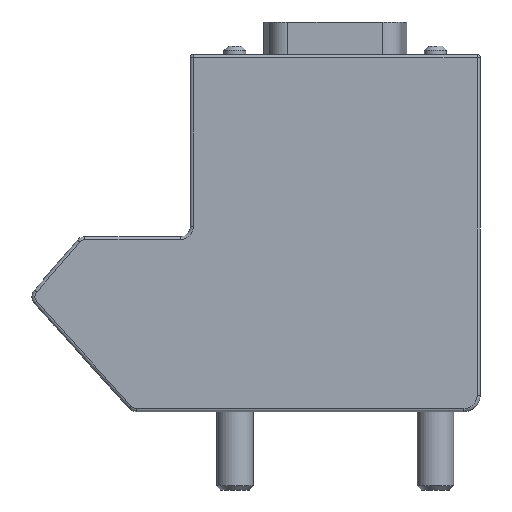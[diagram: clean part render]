
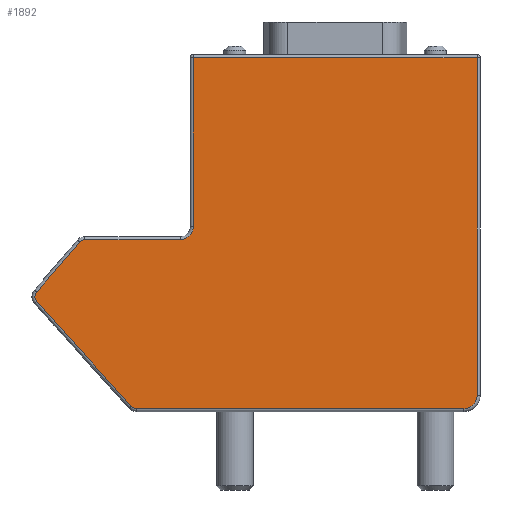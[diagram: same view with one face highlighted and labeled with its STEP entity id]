
A CAD part, left-side view. The second image highlights one B-rep face of the part: STEP entity #1892.
In plain terms, the highlighted planar face has unit normal (-1, 0, 0).
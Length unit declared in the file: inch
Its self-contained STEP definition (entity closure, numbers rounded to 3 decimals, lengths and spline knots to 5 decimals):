
#1=DIRECTION('',(0.,0.,1.));
#2=VECTOR('',#1,1.66);
#3=CARTESIAN_POINT('',(0.,0.015,-1.675));
#4=LINE('',#3,#2);
#5=CARTESIAN_POINT('',(0.,0.08,-1.675));
#6=DIRECTION('',(-1.,0.,0.));
#7=DIRECTION('',(0.,0.,-1.));
#8=AXIS2_PLACEMENT_3D('',#5,#6,#7);
#10=DIRECTION('',(0.,-1.,0.));
#11=VECTOR('',#10,1.60782);
#12=CARTESIAN_POINT('',(0.,1.68782,-1.74));
#13=LINE('',#12,#11);
#14=CARTESIAN_POINT('',(0.,1.68782,-1.705));
#15=DIRECTION('',(-1.,0.,0.));
#16=DIRECTION('',(0.,0.741,-0.671));
#17=AXIS2_PLACEMENT_3D('',#14,#15,#16);
#19=DIRECTION('',(0.,-0.671,-0.741));
#20=VECTOR('',#19,0.6937);
#21=CARTESIAN_POINT('',(0.,2.17928,-1.21417));
#22=LINE('',#21,#20);
#23=CARTESIAN_POINT('',(0.,2.15333,-1.19068));
#24=DIRECTION('',(-1.,0.,0.));
#25=DIRECTION('',(0.,0.758,0.652));
#26=AXIS2_PLACEMENT_3D('',#23,#24,#25);
#28=DIRECTION('',(0.,0.652,-0.758));
#29=VECTOR('',#28,0.32403);
#30=CARTESIAN_POINT('',(0.,1.96859,-0.92218));
#31=LINE('',#30,#29);
#32=CARTESIAN_POINT('',(0.,1.94205,-0.945));
#33=DIRECTION('',(-1.,0.,0.));
#34=DIRECTION('',(0.,0.,1.));
#35=AXIS2_PLACEMENT_3D('',#32,#33,#34);
#37=DIRECTION('',(0.,1.,0.));
#38=VECTOR('',#37,0.46705);
#39=CARTESIAN_POINT('',(0.,1.475,-0.91));
#40=LINE('',#39,#38);
#41=CARTESIAN_POINT('',(0.,1.475,-0.845));
#42=DIRECTION('',(1.,0.,0.));
#43=DIRECTION('',(0.,-1.,0.));
#44=AXIS2_PLACEMENT_3D('',#41,#42,#43);
#46=DIRECTION('',(0.,0.,-1.));
#47=VECTOR('',#46,0.83);
#48=CARTESIAN_POINT('',(0.,1.41,-0.015));
#49=LINE('',#48,#47);
#50=DIRECTION('',(0.,1.,0.));
#51=VECTOR('',#50,1.395);
#52=CARTESIAN_POINT('',(0.,0.015,-0.015));
#53=LINE('',#52,#51);
#1469=CARTESIAN_POINT('',(0.,0.015,-1.675));
#1470=CARTESIAN_POINT('',(0.,0.015,-0.015));
#1471=VERTEX_POINT('',#1469);
#1472=VERTEX_POINT('',#1470);
#1473=CARTESIAN_POINT('',(0.,0.08,-1.74));
#1474=VERTEX_POINT('',#1473);
#1477=CARTESIAN_POINT('',(0.,1.68782,-1.74));
#1478=VERTEX_POINT('',#1477);
#1481=CARTESIAN_POINT('',(0.,1.71377,-1.72849));
#1482=VERTEX_POINT('',#1481);
#1485=CARTESIAN_POINT('',(0.,2.17928,-1.21417));
#1486=VERTEX_POINT('',#1485);
#1489=CARTESIAN_POINT('',(0.,2.17986,-1.16786));
#1490=VERTEX_POINT('',#1489);
#1493=CARTESIAN_POINT('',(0.,1.96859,-0.92218));
#1494=VERTEX_POINT('',#1493);
#1497=CARTESIAN_POINT('',(0.,1.94205,-0.91));
#1498=VERTEX_POINT('',#1497);
#1501=CARTESIAN_POINT('',(0.,1.475,-0.91));
#1502=VERTEX_POINT('',#1501);
#1505=CARTESIAN_POINT('',(0.,1.41,-0.845));
#1506=VERTEX_POINT('',#1505);
#1509=CARTESIAN_POINT('',(0.,1.41,-0.015));
#1510=VERTEX_POINT('',#1509);
#1861=CARTESIAN_POINT('',(0.,0.,0.));
#1862=DIRECTION('',(1.,0.,0.));
#1863=DIRECTION('',(0.,-1.,0.));
#1864=AXIS2_PLACEMENT_3D('',#1861,#1862,#1863);
#1865=PLANE('',#1864);
#1867=ORIENTED_EDGE('',*,*,#1866,.F.);
#1869=ORIENTED_EDGE('',*,*,#1868,.F.);
#1871=ORIENTED_EDGE('',*,*,#1870,.F.);
#1873=ORIENTED_EDGE('',*,*,#1872,.F.);
#1875=ORIENTED_EDGE('',*,*,#1874,.F.);
#1877=ORIENTED_EDGE('',*,*,#1876,.F.);
#1879=ORIENTED_EDGE('',*,*,#1878,.F.);
#1881=ORIENTED_EDGE('',*,*,#1880,.F.);
#1883=ORIENTED_EDGE('',*,*,#1882,.F.);
#1885=ORIENTED_EDGE('',*,*,#1884,.F.);
#1887=ORIENTED_EDGE('',*,*,#1886,.F.);
#1889=ORIENTED_EDGE('',*,*,#1888,.F.);
#1890=EDGE_LOOP('',(#1867,#1869,#1871,#1873,#1875,#1877,#1879,#1881,#1883,#1885,
#1887,#1889));
#1891=FACE_OUTER_BOUND('',#1890,.F.);
#1892=ADVANCED_FACE('',(#1891),#1865,.F.);
#9=CIRCLE('',#8,0.065);
#18=CIRCLE('',#17,0.035);
#27=CIRCLE('',#26,0.035);
#36=CIRCLE('',#35,0.035);
#45=CIRCLE('',#44,0.065);
#1866=EDGE_CURVE('',#1471,#1472,#4,.T.);
#1868=EDGE_CURVE('',#1474,#1471,#9,.T.);
#1870=EDGE_CURVE('',#1478,#1474,#13,.T.);
#1872=EDGE_CURVE('',#1482,#1478,#18,.T.);
#1874=EDGE_CURVE('',#1486,#1482,#22,.T.);
#1876=EDGE_CURVE('',#1490,#1486,#27,.T.);
#1878=EDGE_CURVE('',#1494,#1490,#31,.T.);
#1880=EDGE_CURVE('',#1498,#1494,#36,.T.);
#1882=EDGE_CURVE('',#1502,#1498,#40,.T.);
#1884=EDGE_CURVE('',#1506,#1502,#45,.T.);
#1886=EDGE_CURVE('',#1510,#1506,#49,.T.);
#1888=EDGE_CURVE('',#1472,#1510,#53,.T.);
